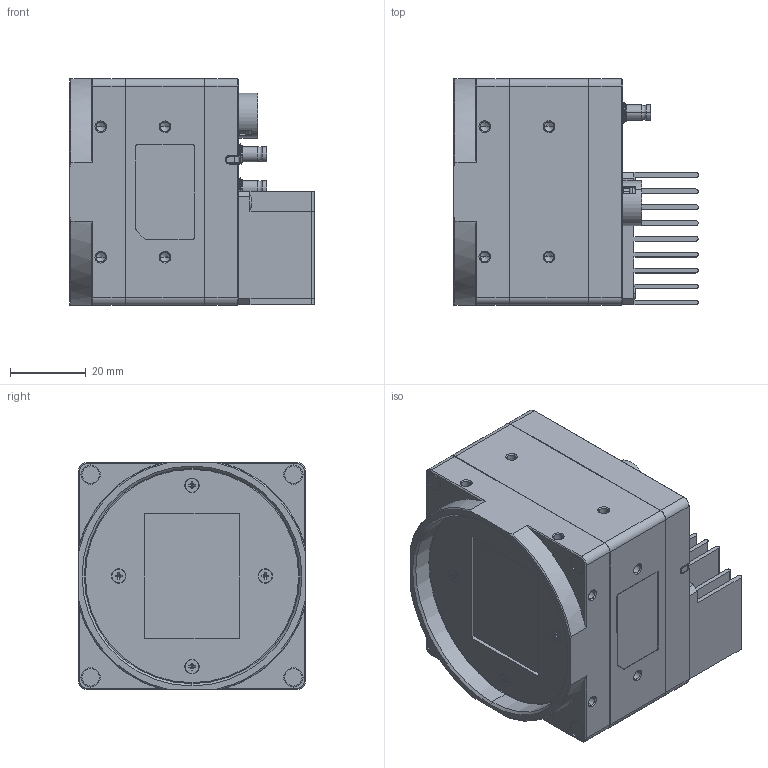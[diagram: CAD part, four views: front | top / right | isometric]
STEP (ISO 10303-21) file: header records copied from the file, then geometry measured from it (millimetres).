
FILE_DESCRIPTION((''),'2;1');
FILE_NAME('PRT0005','2023-08-19T14:52:23',('wangyijun6'),(''),'CREO PARAMETRIC BY PTC INC, 2017260','CREO PARAMETRIC BY PTC INC, 2017260','');
FILE_SCHEMA(('CONFIG_CONTROL_DESIGN'));
Products named in the file (1): PRT0005
Bounding box: 64.71 x 60 x 60 mm (x, y, z)
Volume: 132625.1 mm3; surface area: 48880.3 mm2
Topology: 1 solids, 14 shells, 1813 faces, 4756 edges, 2980 vertices
Faces by surface type: plane 797, cylinder 593, cone 321, torus 54, bspline 48
Entity records: 72742 total; most frequent: CARTESIAN_POINT 28010, DIRECTION 9427, ORIENTED_EDGE 9390, EDGE_CURVE 4695, AXIS2_PLACEMENT_3D 3454, VERTEX_POINT 2980, VECTOR 2519, LINE 2519
